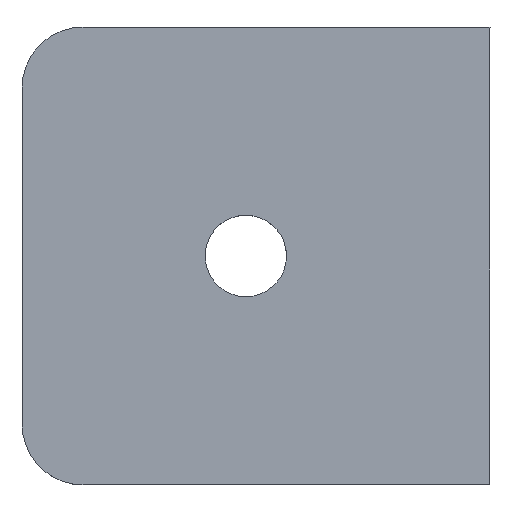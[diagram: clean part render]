
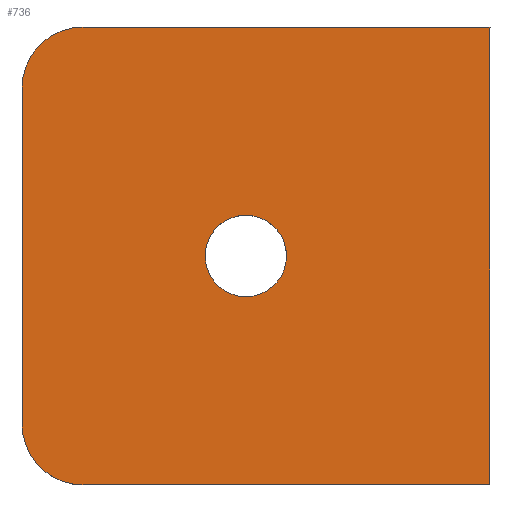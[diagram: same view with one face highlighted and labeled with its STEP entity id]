
A CAD part, top view. The second image highlights one B-rep face of the part: STEP entity #736.
In plain terms, the highlighted planar face has unit normal (0, 0, 1).
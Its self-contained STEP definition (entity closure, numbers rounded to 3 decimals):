
#22=FACE_BOUND('',#228,.T.);
#37=PLANE('',#842);
#77=LINE('',#1294,#109);
#80=LINE('',#1302,#112);
#85=LINE('',#1607,#117);
#87=LINE('',#1611,#119);
#89=LINE('',#1614,#121);
#109=VECTOR('',#913,10.);
#112=VECTOR('',#922,10.);
#117=VECTOR('',#1051,10.);
#119=VECTOR('',#1055,10.);
#121=VECTOR('',#1059,10.);
#181=FACE_OUTER_BOUND('',#227,.T.);
#227=EDGE_LOOP('',(#675,#676,#677,#678,#679,#680,#681));
#228=EDGE_LOOP('',(#682));
#242=CIRCLE('',#773,3.);
#243=CIRCLE('',#776,3.);
#285=CIRCLE('',#838,2.);
#328=VERTEX_POINT('',#1286);
#329=VERTEX_POINT('',#1288);
#330=VERTEX_POINT('',#1292);
#331=VERTEX_POINT('',#1296);
#332=VERTEX_POINT('',#1300);
#353=VERTEX_POINT('',#1602);
#354=VERTEX_POINT('',#1606);
#355=VERTEX_POINT('',#1610);
#406=EDGE_CURVE('',#329,#328,#242,.T.);
#409=EDGE_CURVE('',#328,#330,#77,.T.);
#411=EDGE_CURVE('',#330,#331,#243,.T.);
#413=EDGE_CURVE('',#331,#332,#80,.T.);
#458=EDGE_CURVE('',#353,#353,#285,.T.);
#460=EDGE_CURVE('',#354,#329,#85,.T.);
#462=EDGE_CURVE('',#355,#354,#87,.T.);
#464=EDGE_CURVE('',#332,#355,#89,.T.);
#675=ORIENTED_EDGE('',*,*,#409,.T.);
#676=ORIENTED_EDGE('',*,*,#411,.T.);
#677=ORIENTED_EDGE('',*,*,#413,.T.);
#678=ORIENTED_EDGE('',*,*,#464,.T.);
#679=ORIENTED_EDGE('',*,*,#462,.T.);
#680=ORIENTED_EDGE('',*,*,#460,.T.);
#681=ORIENTED_EDGE('',*,*,#406,.T.);
#682=ORIENTED_EDGE('',*,*,#458,.T.);
#736=ADVANCED_FACE('',(#181,#22),#37,.T.);
#773=AXIS2_PLACEMENT_3D('',#1289,#907,#908);
#776=AXIS2_PLACEMENT_3D('',#1298,#917,#918);
#838=AXIS2_PLACEMENT_3D('',#1603,#1046,#1047);
#842=AXIS2_PLACEMENT_3D('',#1615,#1060,#1061);
#907=DIRECTION('center_axis',(0.,0.,1.));
#908=DIRECTION('ref_axis',(0.,1.,0.));
#913=DIRECTION('',(0.,-1.,0.));
#917=DIRECTION('center_axis',(0.,0.,
1.));
#918=DIRECTION('ref_axis',(-1.,0.,0.));
#922=DIRECTION('',(1.,0.,0.));
#1046=DIRECTION('center_axis',(0.,0.,-1.));
#1047=DIRECTION('ref_axis',(1.,0.,0.));
#1051=DIRECTION('',(-1.,0.,0.));
#1055=DIRECTION('',(0.,1.,0.));
#1059=DIRECTION('',(0.,1.,0.));
#1060=DIRECTION('center_axis',(0.,0.,1.));
#1061=DIRECTION('ref_axis',(1.,0.,0.));
#1286=CARTESIAN_POINT('',(-11.,-12.25,-143.));
#1288=CARTESIAN_POINT('',(-8.,-9.25,-143.));
#1289=CARTESIAN_POINT('Origin',(-8.,-12.25,-143.));
#1292=CARTESIAN_POINT('',(-11.,-28.75,-143.));
#1294=CARTESIAN_POINT('',(-11.,-12.25,-143.));
#1296=CARTESIAN_POINT('',(-8.,-31.75,-143.));
#1298=CARTESIAN_POINT('Origin',(-8.,-28.75,-143.));
#1300=CARTESIAN_POINT('',(12.,-31.75,-143.));
#1302=CARTESIAN_POINT('',(-8.,-31.75,-143.));
#1602=CARTESIAN_POINT('',(-2.,-20.5,-143.));
#1603=CARTESIAN_POINT('Origin',(0.,-20.5,-143.));
#1606=CARTESIAN_POINT('',(12.,-9.25,-143.));
#1607=CARTESIAN_POINT('',(13.03,-9.25,-143.));
#1610=CARTESIAN_POINT('',(12.,-20.5,-143.));
#1611=CARTESIAN_POINT('',(12.,-20.5,-143.));
#1614=CARTESIAN_POINT('',(12.,-20.5,-143.));
#1615=CARTESIAN_POINT('Origin',(1.5,-20.5,-143.));
